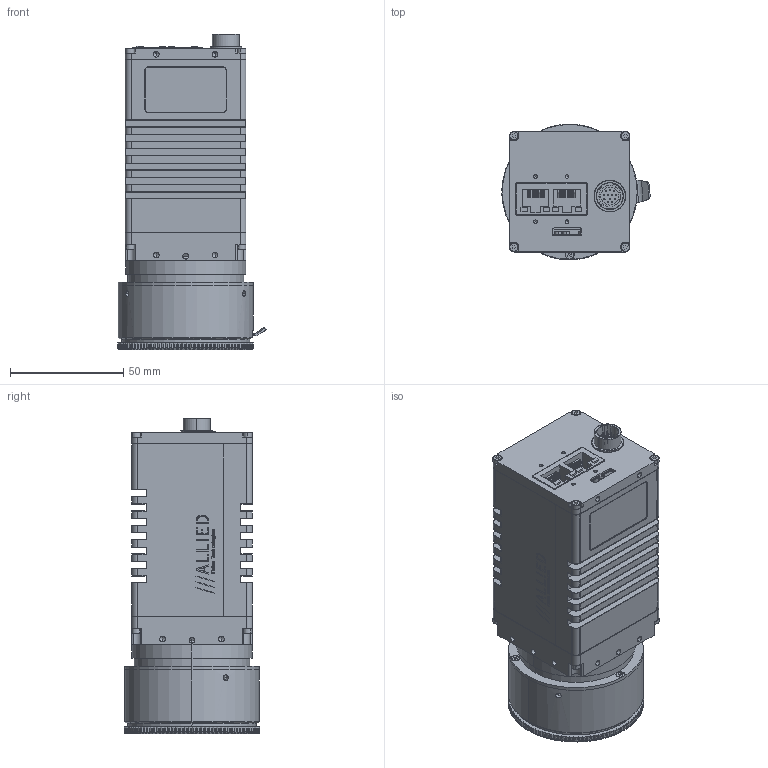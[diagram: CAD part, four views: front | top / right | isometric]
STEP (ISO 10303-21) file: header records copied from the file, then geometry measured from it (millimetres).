
FILE_DESCRIPTION (( 'STEP AP214' ), '1' );
FILE_NAME ('GX6600 FMOUNT_NEW.STEP', '2013-07-29T17:57:11', ( '' ), ( '' ), 'SwSTEP 2.0', 'SolidWorks 2013', '' );
FILE_SCHEMA (( 'AUTOMOTIVE_DESIGN' ));
Length unit declared in the file: millimetre
Products named in the file (34): 100114A-FMOUNT FRONT ASSY_REV B; 140035-NIKON 54341 SPRING; 140035-NIKON 54341 TENSION RING; 100172E - GX6600 BODY ASSY; 140035-NIKON 54341 MAIN RING; 100171B - GX6600 BACK ASSY; 110052A-FMOUNT ADAPTER; 110141A-GX6600 BACK PLATE; 140036 NIKON BF-1A FMOUNT CAP; 110142A-GX6600 BACK PLATE EMI GASKET; 140033-SCREW SET M3x3 SS; 260034-HIROSE HR10A-10R-12PB NUT; 140035-NIKON 54341 SCREW; 260034-HIROSE HR10A-10R-12PB WASHER; 110113A-FMOUNT ADAPTER PLATE; 260034-HIROSE HR10A-10R-12PB; 140068-SCREW FLAT HEAD M2x4 SS; 110139A-GX6600 BOTTOM COVER_Finished; 110112A-TEFLON INSERT 0.125IN DIA 0.57IN LENGTH; 110140A-GX6600 TOP COVER_Finished; 200114G-GX6600 MAIN PCBA; 140035-NIKON 54341 TAB; 260043-HALO HFJ12-1G16ER-L12RL; 110138A-GX6600 CCD GASKET; 140061-SCREW SKT CAP M2x8 SS; 110137A-GX6600 LENS MOUNT BASE; 100184A - GX6600 FRONT ASSY FMOUNT; 140077-SET SCREW CONE M3 X 3 SS; 110134A-GX6600 FRONT PLATE; 140083-SCREW SKT CAP M2x10 SS; 220212-KODAK KAI-29050-ABA; KAI-29050 BODY; GX6600 FMOUNT_NEW; KAI-29050 WINDOW
Assembly tree (47 placements, depth 4):
  GX6600 FMOUNT_NEW
    140083-SCREW SKT CAP M2x10 SS  x4
    100184A - GX6600 FRONT ASSY FMOUNT
      140077-SET SCREW CONE M3 X 3 SS
      110137A-GX6600 LENS MOUNT BASE
      110138A-GX6600 CCD GASKET
      100114A-FMOUNT FRONT ASSY_REV B
        140035-NIKON 54341 TAB
        110112A-TEFLON INSERT 0.125IN DIA 0.57IN LENGTH  x3
        140068-SCREW FLAT HEAD M2x4 SS  x3
        110113A-FMOUNT ADAPTER PLATE
        140035-NIKON 54341 SCREW  x3
        140033-SCREW SET M3x3 SS  x3
        140036 NIKON BF-1A FMOUNT CAP
        110052A-FMOUNT ADAPTER
        140035-NIKON 54341 MAIN RING
        140035-NIKON 54341 TENSION RING
        140035-NIKON 54341 SPRING
      220212-KODAK KAI-29050-ABA
        KAI-29050 WINDOW
        KAI-29050 BODY
      110134A-GX6600 FRONT PLATE
    100172E - GX6600 BODY ASSY
      140061-SCREW SKT CAP M2x8 SS  x4
      200114G-GX6600 MAIN PCBA
        260043-HALO HFJ12-1G16ER-L12RL
      110140A-GX6600 TOP COVER_Finished
      110139A-GX6600 BOTTOM COVER_Finished
      100171B - GX6600 BACK ASSY
        260034-HIROSE HR10A-10R-12PB
        260034-HIROSE HR10A-10R-12PB WASHER
        260034-HIROSE HR10A-10R-12PB NUT
        110142A-GX6600 BACK PLATE EMI GASKET
        110141A-GX6600 BACK PLATE
Bounding box: 65.61 x 59.99 x 139.58 mm (x, y, z)
Volume: 180177.9 mm3; surface area: 157348.4 mm2
Topology: 84 solids, 84 shells, 3510 faces, 9107 edges, 5897 vertices
Faces by surface type: plane 1912, cylinder 1018, bspline 394, cone 186
Entity records: 153574 total; most frequent: CARTESIAN_POINT 36554, ORIENTED_EDGE 16904, DIRECTION 15368, EDGE_CURVE 8452, VERTEX_POINT 5567, LINE 5476, VECTOR 5476, AXIS2_PLACEMENT_3D 4946
